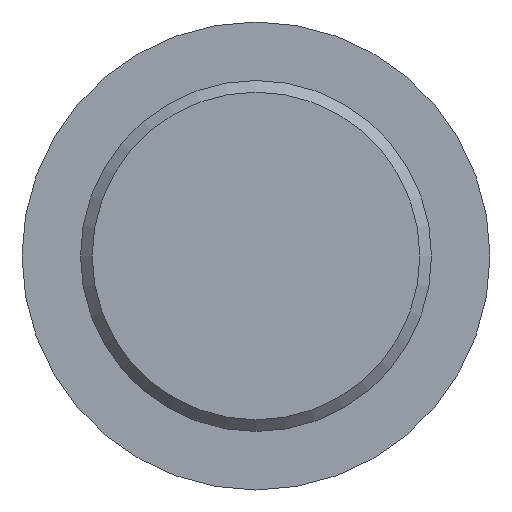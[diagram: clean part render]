
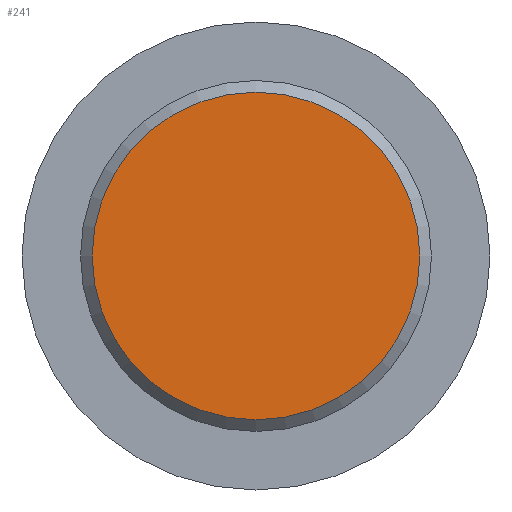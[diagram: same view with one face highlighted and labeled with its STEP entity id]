
A CAD part, front view. The second image highlights one B-rep face of the part: STEP entity #241.
In plain terms, the highlighted planar face has unit normal (0, -1, 0).
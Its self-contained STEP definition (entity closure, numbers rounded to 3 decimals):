
#26=PLANE('',#279);
#34=FACE_OUTER_BOUND('',#49,.T.);
#49=EDGE_LOOP('',(#175));
#86=CIRCLE('',#278,7.);
#112=VERTEX_POINT('',#414);
#139=EDGE_CURVE('',#112,#112,#86,.T.);
#175=ORIENTED_EDGE('',*,*,#139,.F.);
#241=ADVANCED_FACE('',(#34),#26,.T.);
#278=AXIS2_PLACEMENT_3D('',#416,#325,#326);
#279=AXIS2_PLACEMENT_3D('',#417,#327,#328);
#325=DIRECTION('center_axis',(0.,1.,0.));
#326=DIRECTION('ref_axis',(0.,0.,-1.));
#327=DIRECTION('center_axis',(0.,-1.,0.));
#328=DIRECTION('ref_axis',(0.,0.,-1.));
#414=CARTESIAN_POINT('',(0.,-300.,7.));
#416=CARTESIAN_POINT('Origin',(0.,-300.,0.));
#417=CARTESIAN_POINT('Origin',(0.,-300.,7.5));
